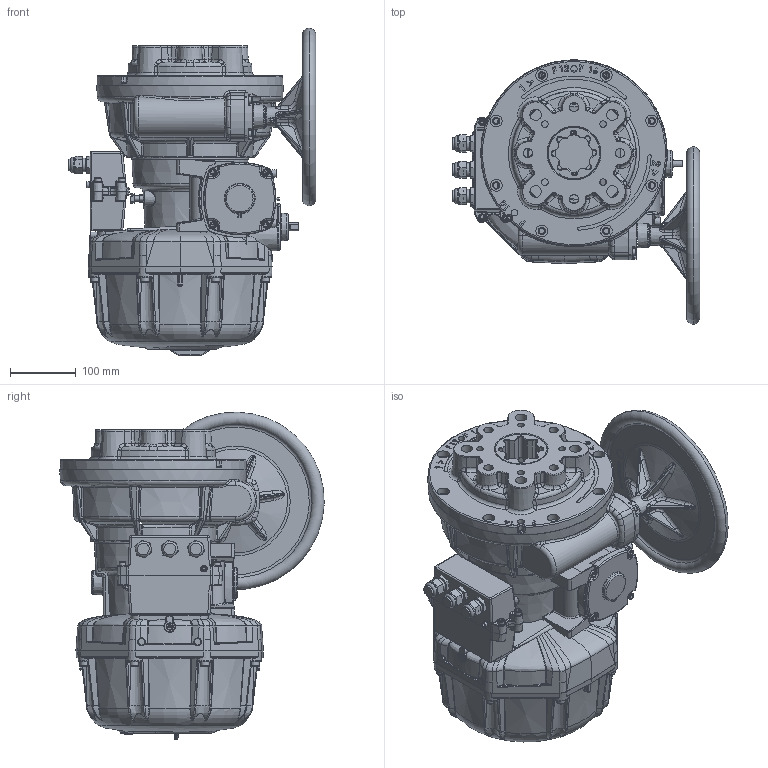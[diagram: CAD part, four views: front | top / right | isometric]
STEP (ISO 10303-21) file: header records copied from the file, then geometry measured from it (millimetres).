
FILE_DESCRIPTION (( 'STEP AP214' ), '1' );
FILE_NAME ('vtplus2400.STEP', '2018-03-14T09:32:46', ( '' ), ( '' ), 'SwSTEP 2.0', 'SolidWorks 2013', '' );
FILE_SCHEMA (( 'AUTOMOTIVE_DESIGN' ));
Length unit declared in the file: millimetre
Products named in the file (1): vtplus2400
Bounding box: 376 x 401.87 x 497.97 mm (x, y, z)
Surface area: 914733.4 mm2 (no closed solid volume)
Topology: 0 solids, 94 shells, 2590 faces, 8439 edges, 5577 vertices
Faces by surface type: bspline 873, plane 741, cylinder 492, torus 276, cone 172, sphere 36
Full cylindrical faces by diameter (mm): 4.2 x1, 6 x1, 6.8 x1, 8 x1, 8.5 x2, 9.9 x1, 10 x19, 10.2 x4, 11 x1, 12 x2, 13 x8, 14 x4, 15 x2, 16 x1, 17.5 x4, 17.9 x3, 18 x8, 18.5 x1, 20.8 x3, 23.5 x3, 57.1 x1, 68 x1, 80 x1, 177.4 x1
Entity records: 165036 total; most frequent: CARTESIAN_POINT 73961, ORIENTED_EDGE 13041, DIRECTION 10798, EDGE_CURVE 8183, VERTEX_POINT 5547, AXIS2_PLACEMENT_3D 4112, EDGE_LOOP 3015, B_SPLINE_CURVE_WITH_KNOTS 2789
